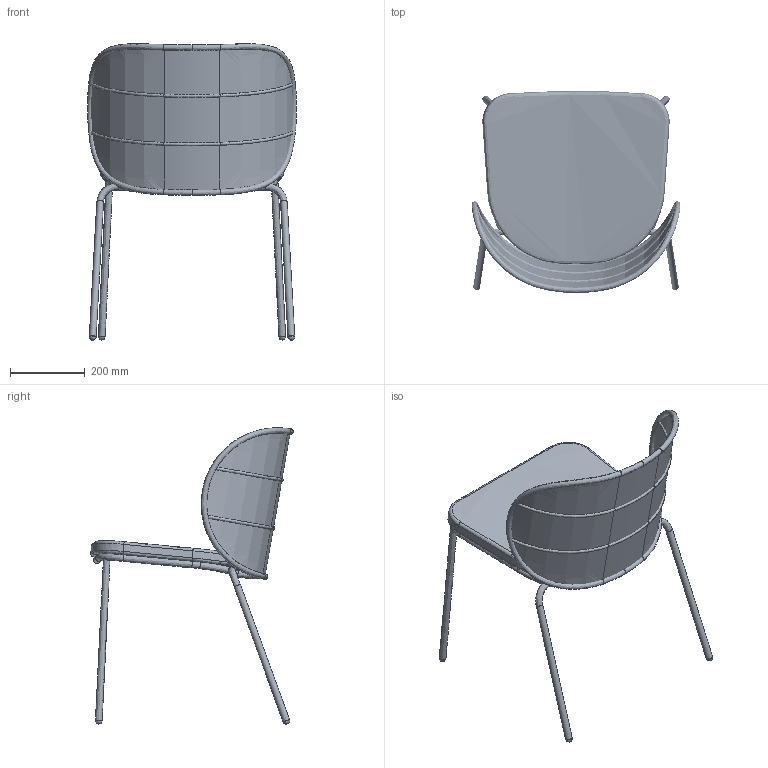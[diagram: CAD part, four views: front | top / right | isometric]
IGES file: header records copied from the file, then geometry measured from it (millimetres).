
Global section: file name: VincentSheppard_Kodo_DC; native system: unknown; preprocessor: unknown; author: unknown; organization: unknown; date: 20190924.082048; units: millimetre
Bounding box: 557.78 x 540.63 x 791.82 mm (x, y, z)
Volume: 7820765.3 mm3; surface area: 1595435.9 mm2
Topology: 23 solids, 24 shells, 991 faces, 3246 edges, 2296 vertices
Faces by surface type: bspline 988, revolution 3
